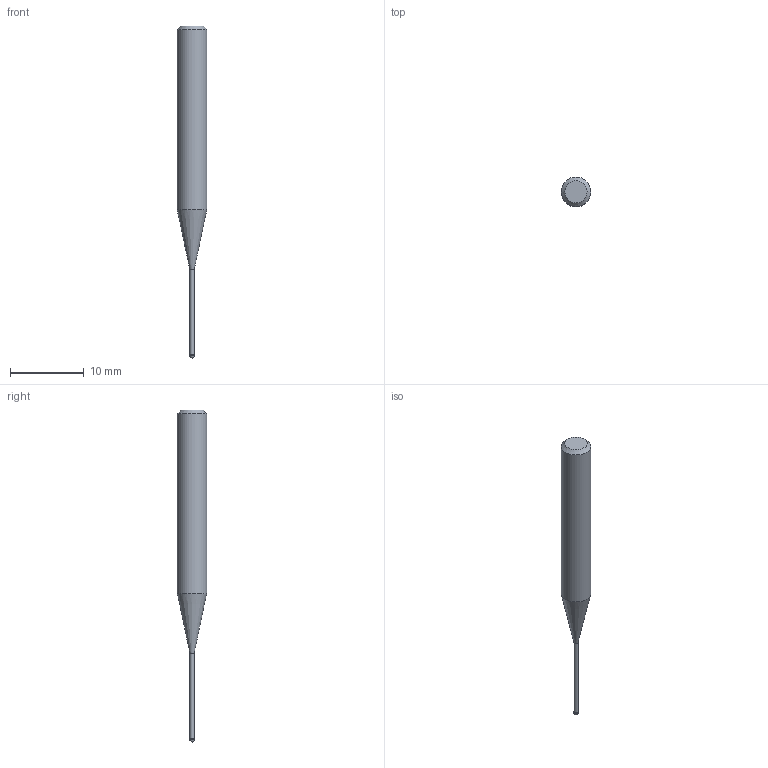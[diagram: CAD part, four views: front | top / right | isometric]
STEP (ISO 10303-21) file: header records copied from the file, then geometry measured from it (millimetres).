
FILE_DESCRIPTION((''),'2;1');
FILE_NAME('C:\Users\nsx150\AppData\Local\Temp\Mastercam 2021\3SYKECWX22\TEMP.step','2021-04-22T10:01:19',(''),(''),'STEP Write','Mastercam 2021 ... CNC Software, Inc.','');
FILE_SCHEMA(('AUTOMOTIVE_DESIGN'));
Length unit declared in the file: millimetre
Products named in the file (1): None
Bounding box: 4 x 4 x 45 mm (x, y, z)
Volume: 353.8 mm3; surface area: 402.5 mm2
Topology: 2 solids, 2 shells, 9 faces, 14 edges, 8 vertices
Faces by surface type: plane 3, cylinder 3, cone 2, sphere 1
Full cylindrical faces by diameter (mm): 0.56 x1, 0.6 x1, 4 x1
Entity records: 211 total; most frequent: DIRECTION 36, CARTESIAN_POINT 25, AXIS2_PLACEMENT_3D 18, ORIENTED_EDGE 14, EDGE_LOOP 14, STYLED_ITEM 12, ADVANCED_FACE 9, FACE_BOUND 8
